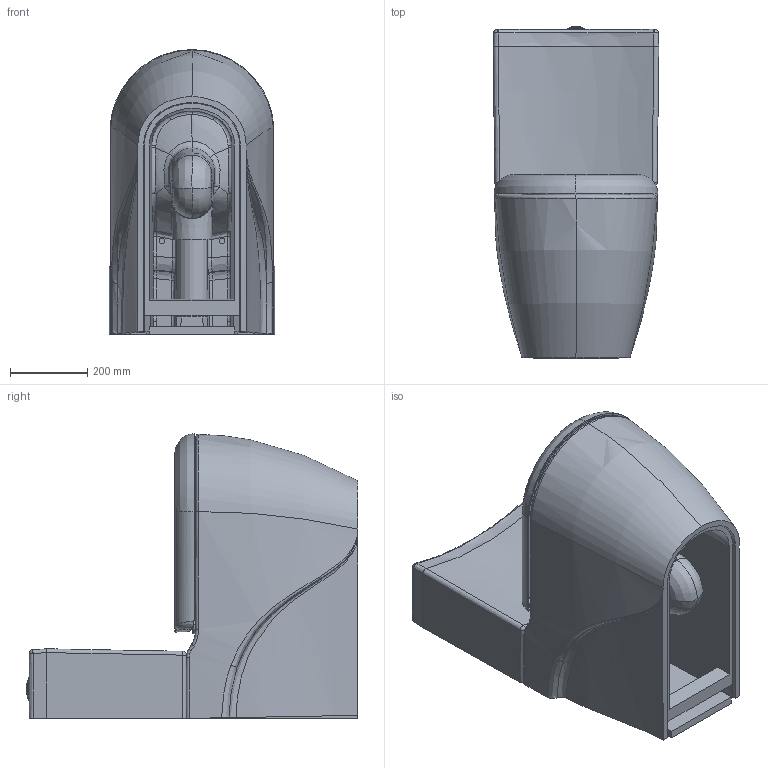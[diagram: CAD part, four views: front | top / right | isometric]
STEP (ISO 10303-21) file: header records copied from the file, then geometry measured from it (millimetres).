
FILE_DESCRIPTION (( 'STEP AP203' ), '1' );
FILE_NAME ('GR360-REV.STEP', '2018-08-01T08:45:23', ( '' ), ( '' ), 'SwSTEP 2.0', 'SolidWorks 2018', '' );
FILE_SCHEMA (( 'CONFIG_CONTROL_DESIGN' ));
Products named in the file (1): GR360-REV
Bounding box: 429.28 x 858.79 x 737 mm (x, y, z)
Volume: 59946072.1 mm3; surface area: 4273453.8 mm2
Topology: 15 solids, 15 shells, 1157 faces, 2906 edges, 1756 vertices
Faces by surface type: bspline 589, cylinder 229, plane 218, sphere 48, torus 37, cone 36
Entity records: 121940 total; most frequent: CARTESIAN_POINT 99843, ORIENTED_EDGE 5692, DIRECTION 2969, EDGE_CURVE 2846, VERTEX_POINT 1756, B_SPLINE_CURVE_WITH_KNOTS 1400, EDGE_LOOP 1208, AXIS2_PLACEMENT_3D 1184
